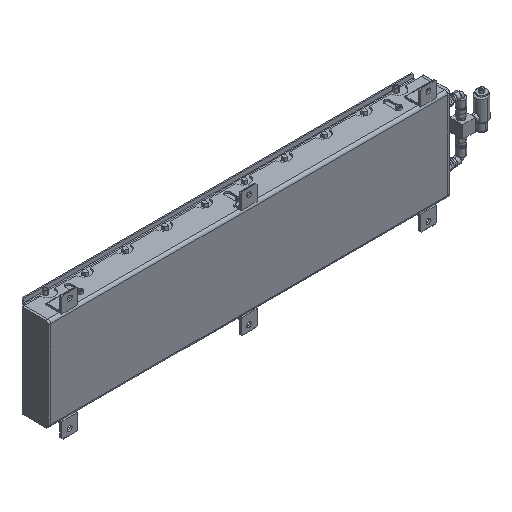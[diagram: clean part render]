
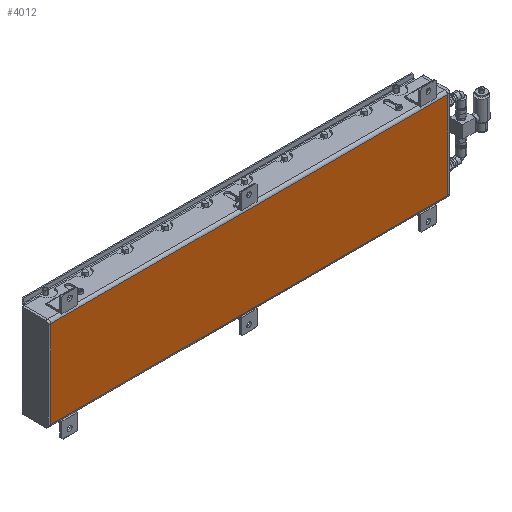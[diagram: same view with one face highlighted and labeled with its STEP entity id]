
A CAD part, isometric view. The second image highlights one B-rep face of the part: STEP entity #4012.
In plain terms, the highlighted planar face has unit normal (0, -1, 0).
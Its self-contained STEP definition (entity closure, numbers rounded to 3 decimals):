
#443 = ORIENTED_EDGE ( 'NONE', *, *, #4154, .F. ) ;
#2203 = VECTOR ( 'NONE', #20996, 1000. ) ;
#2738 = CARTESIAN_POINT ( 'NONE',  ( 0., -33., -109.7 ) ) ;
#3117 = ORIENTED_EDGE ( 'NONE', *, *, #18634, .T. ) ;
#3293 = CARTESIAN_POINT ( 'NONE',  ( 996., -33., 109.7 ) ) ;
#3482 = VECTOR ( 'NONE', #17150, 1000. ) ;
#3525 = CARTESIAN_POINT ( 'NONE',  ( 996., -33., 116.5 ) ) ;
#4012 = ADVANCED_FACE ( 'NONE', ( #17261 ), #14889, .F. ) ;
#4154 = EDGE_CURVE ( 'NONE', #11954, #9836, #19624, .T. ) ;
#4631 = ORIENTED_EDGE ( 'NONE', *, *, #5726, .T. ) ;
#4995 = DIRECTION ( 'NONE',  ( -1., 0., 0. ) ) ;
#5451 = VERTEX_POINT ( 'NONE', #7500 ) ;
#5726 = EDGE_CURVE ( 'NONE', #11954, #5451, #12559, .T. ) ;
#5899 = CARTESIAN_POINT ( 'NONE',  ( 996., -33., -109.7 ) ) ;
#6565 = CARTESIAN_POINT ( 'NONE',  ( 996., -33., 116.5 ) ) ;
#7130 = CARTESIAN_POINT ( 'NONE',  ( 0., -33., 116.5 ) ) ;
#7500 = CARTESIAN_POINT ( 'NONE',  ( 0., -33., 109.7 ) ) ;
#8760 = ORIENTED_EDGE ( 'NONE', *, *, #9054, .T. ) ;
#8803 = CARTESIAN_POINT ( 'NONE',  ( 996., -33., 109.7 ) ) ;
#9054 = EDGE_CURVE ( 'NONE', #5451, #11624, #20788, .T. ) ;
#9285 = CARTESIAN_POINT ( 'NONE',  ( 996., -33., -109.7 ) ) ;
#9836 = VERTEX_POINT ( 'NONE', #5899 ) ;
#10583 = LINE ( 'NONE', #9285, #2203 ) ;
#10698 = VECTOR ( 'NONE', #20332, 1000. ) ;
#11615 = DIRECTION ( 'NONE',  ( 0., 0., 1. ) ) ;
#11624 = VERTEX_POINT ( 'NONE', #2738 ) ;
#11954 = VERTEX_POINT ( 'NONE', #8803 ) ;
#12559 = LINE ( 'NONE', #3293, #21473 ) ;
#14889 = PLANE ( 'NONE',  #17646 ) ;
#17150 = DIRECTION ( 'NONE',  ( 0., 0., -1. ) ) ;
#17261 = FACE_OUTER_BOUND ( 'NONE', #19809, .T. ) ;
#17646 = AXIS2_PLACEMENT_3D ( 'NONE', #6565, #21628, #11615 ) ;
#18634 = EDGE_CURVE ( 'NONE', #11624, #9836, #10583, .T. ) ;
#19624 = LINE ( 'NONE', #3525, #10698 ) ;
#19809 = EDGE_LOOP ( 'NONE', ( #8760, #3117, #443, #4631 ) ) ;
#20332 = DIRECTION ( 'NONE',  ( 0., 0., -1. ) ) ;
#20788 = LINE ( 'NONE', #7130, #3482 ) ;
#20996 = DIRECTION ( 'NONE',  ( 1., 0., 0. ) ) ;
#21473 = VECTOR ( 'NONE', #4995, 1000. ) ;
#21628 = DIRECTION ( 'NONE',  ( 0., 1., 0. ) ) ;
